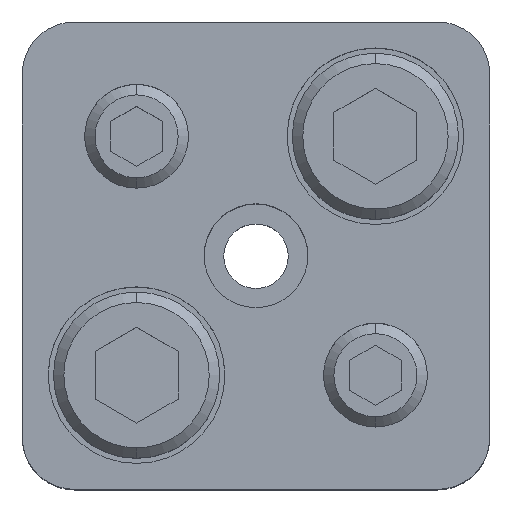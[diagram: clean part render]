
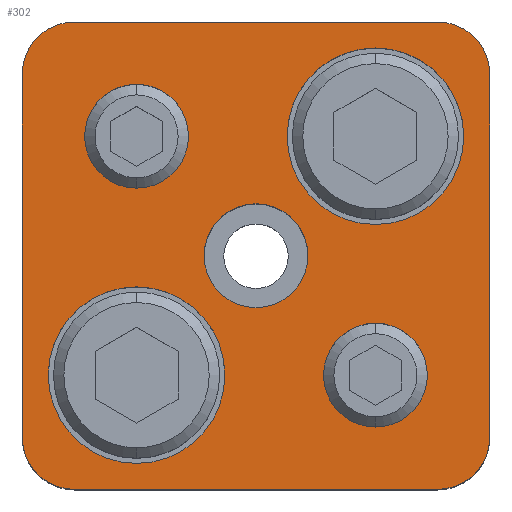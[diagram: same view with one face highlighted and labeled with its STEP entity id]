
A CAD part, top view. The second image highlights one B-rep face of the part: STEP entity #302.
In plain terms, the highlighted planar face has unit normal (0, 0, 1).
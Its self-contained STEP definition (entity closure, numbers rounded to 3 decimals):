
#165=FACE_BOUND('',#685,.T.);
#166=FACE_BOUND('',#686,.T.);
#167=FACE_BOUND('',#687,.T.);
#168=FACE_BOUND('',#688,.T.);
#169=FACE_BOUND('',#689,.T.);
#170=FACE_BOUND('',#690,.T.);
#211=PLANE('',#2792);
#302=ADVANCED_FACE('',(#165,#166,#167,#168,#169,#170),#211,.T.);
#685=EDGE_LOOP('',(#1147,#1148,#1149,#1150,#1151,#1152,#1153,#1154));
#686=EDGE_LOOP('',(#1155,#1156));
#687=EDGE_LOOP('',(#1157,#1158));
#688=EDGE_LOOP('',(#1159,#1160));
#689=EDGE_LOOP('',(#1161,#1162));
#690=EDGE_LOOP('',(#1163,#1164));
#877=CIRCLE('',#2768,8.5);
#879=CIRCLE('',#2771,8.5);
#881=CIRCLE('',#2775,8.5);
#883=CIRCLE('',#2778,8.5);
#885=CIRCLE('',#2782,5.);
#886=CIRCLE('',#2783,5.);
#887=CIRCLE('',#2784,5.);
#888=CIRCLE('',#2785,5.);
#889=CIRCLE('',#2786,5.);
#890=CIRCLE('',#2787,5.);
#891=CIRCLE('',#2788,5.);
#892=CIRCLE('',#2789,5.);
#893=CIRCLE('',#2790,5.);
#894=CIRCLE('',#2791,5.);
#1147=ORIENTED_EDGE('',*,*,#2031,.T.);
#1148=ORIENTED_EDGE('',*,*,#2032,.T.);
#1149=ORIENTED_EDGE('',*,*,#2033,.T.);
#1150=ORIENTED_EDGE('',*,*,#2034,.T.);
#1151=ORIENTED_EDGE('',*,*,#2035,.T.);
#1152=ORIENTED_EDGE('',*,*,#2036,.T.);
#1153=ORIENTED_EDGE('',*,*,#2037,.T.);
#1154=ORIENTED_EDGE('',*,*,#2038,.T.);
#1155=ORIENTED_EDGE('',*,*,#2039,.F.);
#1156=ORIENTED_EDGE('',*,*,#2040,.F.);
#1157=ORIENTED_EDGE('',*,*,#2041,.F.);
#1158=ORIENTED_EDGE('',*,*,#2042,.F.);
#1159=ORIENTED_EDGE('',*,*,#2029,.F.);
#1160=ORIENTED_EDGE('',*,*,#2025,.F.);
#1161=ORIENTED_EDGE('',*,*,#2023,.F.);
#1162=ORIENTED_EDGE('',*,*,#2019,.F.);
#1163=ORIENTED_EDGE('',*,*,#2043,.T.);
#1164=ORIENTED_EDGE('',*,*,#2044,.T.);
#1767=VERTEX_POINT('',#4005);
#1768=VERTEX_POINT('',#4006);
#1771=VERTEX_POINT('',#4018);
#1772=VERTEX_POINT('',#4019);
#1775=VERTEX_POINT('',#4031);
#1776=VERTEX_POINT('',#4032);
#1777=VERTEX_POINT('',#4034);
#1778=VERTEX_POINT('',#4036);
#1779=VERTEX_POINT('',#4038);
#1780=VERTEX_POINT('',#4040);
#1781=VERTEX_POINT('',#4042);
#1782=VERTEX_POINT('',#4044);
#1783=VERTEX_POINT('',#4047);
#1784=VERTEX_POINT('',#4048);
#1785=VERTEX_POINT('',#4051);
#1786=VERTEX_POINT('',#4052);
#1787=VERTEX_POINT('',#4055);
#1788=VERTEX_POINT('',#4056);
#2019=EDGE_CURVE('',#1767,#1768,#877,.T.);
#2023=EDGE_CURVE('',#1768,#1767,#879,.T.);
#2025=EDGE_CURVE('',#1771,#1772,#881,.T.);
#2029=EDGE_CURVE('',#1772,#1771,#883,.T.);
#2031=EDGE_CURVE('',#1775,#1776,#885,.T.);
#2032=EDGE_CURVE('',#1776,#1777,#2349,.T.);
#2033=EDGE_CURVE('',#1777,#1778,#886,.T.);
#2034=EDGE_CURVE('',#1778,#1779,#2350,.T.);
#2035=EDGE_CURVE('',#1779,#1780,#887,.T.);
#2036=EDGE_CURVE('',#1780,#1781,#2351,.T.);
#2037=EDGE_CURVE('',#1781,#1782,#888,.T.);
#2038=EDGE_CURVE('',#1782,#1775,#2352,.T.);
#2039=EDGE_CURVE('',#1783,#1784,#889,.T.);
#2040=EDGE_CURVE('',#1784,#1783,#890,.T.);
#2041=EDGE_CURVE('',#1785,#1786,#891,.T.);
#2042=EDGE_CURVE('',#1786,#1785,#892,.T.);
#2043=EDGE_CURVE('',#1787,#1788,#893,.T.);
#2044=EDGE_CURVE('',#1788,#1787,#894,.T.);
#2349=LINE('',#4033,#2545);
#2350=LINE('',#4037,#2546);
#2351=LINE('',#4041,#2547);
#2352=LINE('',#4045,#2548);
#2545=VECTOR('',#3215,1.);
#2546=VECTOR('',#3218,1.);
#2547=VECTOR('',#3221,1.);
#2548=VECTOR('',#3224,1.);
#2768=AXIS2_PLACEMENT_3D('',#4004,#3181,#3182);
#2771=AXIS2_PLACEMENT_3D('',#4013,#3189,#3190);
#2775=AXIS2_PLACEMENT_3D('',#4017,#3197,#3198);
#2778=AXIS2_PLACEMENT_3D('',#4026,#3205,#3206);
#2782=AXIS2_PLACEMENT_3D('',#4030,#3213,#3214);
#2783=AXIS2_PLACEMENT_3D('',#4035,#3216,#3217);
#2784=AXIS2_PLACEMENT_3D('',#4039,#3219,#3220);
#2785=AXIS2_PLACEMENT_3D('',#4043,#3222,#3223);
#2786=AXIS2_PLACEMENT_3D('',#4046,#3225,#3226);
#2787=AXIS2_PLACEMENT_3D('',#4049,#3227,#3228);
#2788=AXIS2_PLACEMENT_3D('',#4050,#3229,#3230);
#2789=AXIS2_PLACEMENT_3D('',#4053,#3231,#3232);
#2790=AXIS2_PLACEMENT_3D('',#4054,#3233,#3234);
#2791=AXIS2_PLACEMENT_3D('',#4057,#3235,#3236);
#2792=AXIS2_PLACEMENT_3D('',#4058,#3237,#3238);
#3181=DIRECTION('',(0.,0.,1.));
#3182=DIRECTION('',(-1.,0.,0.));
#3189=DIRECTION('',(0.,0.,1.));
#3190=DIRECTION('',(1.,0.,0.));
#3197=DIRECTION('',(0.,0.,1.));
#3198=DIRECTION('',(-1.,0.,0.));
#3205=DIRECTION('',(0.,0.,1.));
#3206=DIRECTION('',(1.,0.,0.));
#3213=DIRECTION('',(0.,0.,1.));
#3214=DIRECTION('',(-0.707,-0.707,0.));
#3215=DIRECTION('',(-1.,0.,0.));
#3216=DIRECTION('',(0.,0.,1.));
#3217=DIRECTION('',(0.707,-0.707,0.));
#3218=DIRECTION('',(0.,-1.,0.));
#3219=DIRECTION('',(0.,0.,1.));
#3220=DIRECTION('',(0.707,0.707,0.));
#3221=DIRECTION('',(1.,0.,0.));
#3222=DIRECTION('',(0.,0.,1.));
#3223=DIRECTION('',(-0.707,0.707,0.));
#3224=DIRECTION('',(0.,1.,0.));
#3225=DIRECTION('',(0.,0.,1.));
#3226=DIRECTION('',(1.,0.,0.));
#3227=DIRECTION('',(0.,0.,1.));
#3228=DIRECTION('',(-1.,0.,0.));
#3229=DIRECTION('',(0.,0.,1.));
#3230=DIRECTION('',(1.,0.,0.));
#3231=DIRECTION('',(0.,0.,1.));
#3232=DIRECTION('',(-1.,0.,0.));
#3233=DIRECTION('',(0.,0.,-1.));
#3234=DIRECTION('',(-1.,0.,0.));
#3235=DIRECTION('',(0.,0.,-1.));
#3236=DIRECTION('',(1.,0.,0.));
#3237=DIRECTION('',(0.,0.,1.));
#3238=DIRECTION('',(0.,-1.,0.));
#4004=CARTESIAN_POINT('',(11.5,11.5,35.));
#4005=CARTESIAN_POINT('',(11.5,3.,35.));
#4006=CARTESIAN_POINT('',(11.5,20.,35.));
#4013=CARTESIAN_POINT('',(11.5,11.5,35.));
#4017=CARTESIAN_POINT('',(-11.5,-11.5,35.));
#4018=CARTESIAN_POINT('',(-11.5,-20.,35.));
#4019=CARTESIAN_POINT('',(-11.5,-3.,35.));
#4026=CARTESIAN_POINT('',(-11.5,-11.5,35.));
#4030=CARTESIAN_POINT('',(17.5,17.5,35.));
#4031=CARTESIAN_POINT('',(22.5,17.5,35.));
#4032=CARTESIAN_POINT('',(17.5,22.5,35.));
#4033=CARTESIAN_POINT('',(17.5,22.5,35.));
#4034=CARTESIAN_POINT('',(-17.5,22.5,35.));
#4035=CARTESIAN_POINT('',(-17.5,17.5,35.));
#4036=CARTESIAN_POINT('',(-22.5,17.5,35.));
#4037=CARTESIAN_POINT('',(-22.5,17.5,35.));
#4038=CARTESIAN_POINT('',(-22.5,-17.5,35.));
#4039=CARTESIAN_POINT('',(-17.5,-17.5,35.));
#4040=CARTESIAN_POINT('',(-17.5,-22.5,35.));
#4041=CARTESIAN_POINT('',(17.5,-22.5,35.));
#4042=CARTESIAN_POINT('',(17.5,-22.5,35.));
#4043=CARTESIAN_POINT('',(17.5,-17.5,35.));
#4044=CARTESIAN_POINT('',(22.5,-17.5,35.));
#4045=CARTESIAN_POINT('',(22.5,17.5,35.));
#4046=CARTESIAN_POINT('',(-11.5,11.5,35.));
#4047=CARTESIAN_POINT('',(-11.5,16.5,35.));
#4048=CARTESIAN_POINT('',(-11.5,6.5,35.));
#4049=CARTESIAN_POINT('',(-11.5,11.5,35.));
#4050=CARTESIAN_POINT('',(11.5,-11.5,35.));
#4051=CARTESIAN_POINT('',(11.5,-6.5,35.));
#4052=CARTESIAN_POINT('',(11.5,-16.5,35.));
#4053=CARTESIAN_POINT('',(11.5,-11.5,35.));
#4054=CARTESIAN_POINT('',(0.,0.,35.));
#4055=CARTESIAN_POINT('',(0.,5.,35.));
#4056=CARTESIAN_POINT('',(0.,-5.,35.));
#4057=CARTESIAN_POINT('',(0.,0.,35.));
#4058=CARTESIAN_POINT('',(22.5,17.5,35.));
